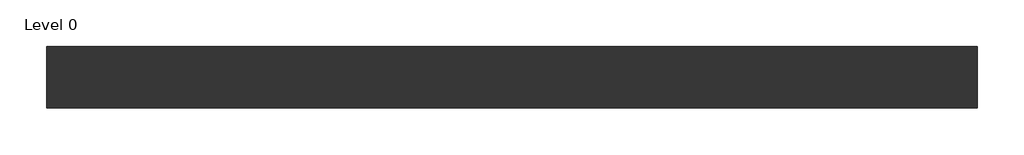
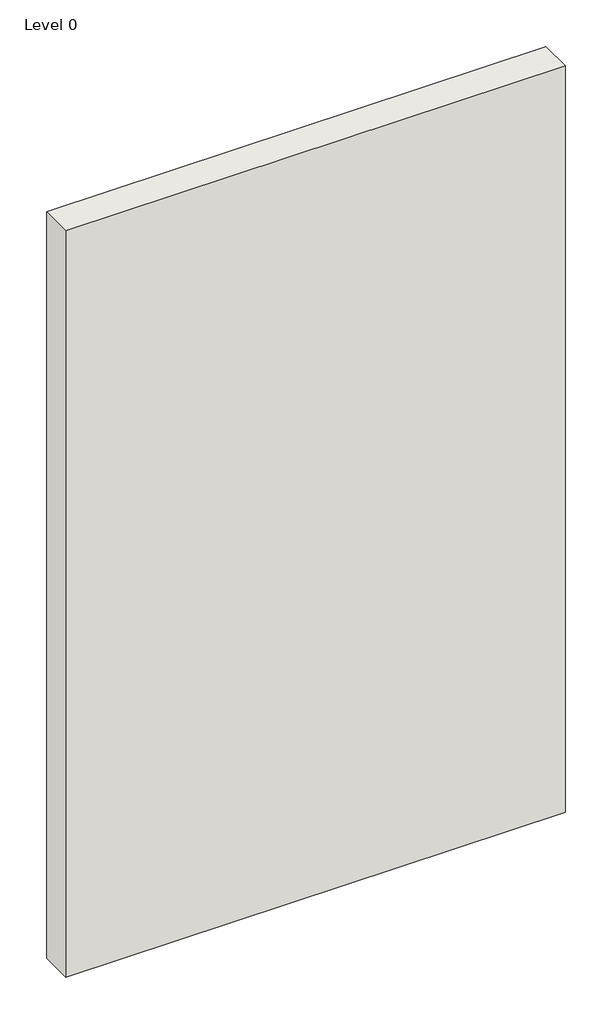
# One storey: 1 wall.
"""IFC4 building model written with IfcOpenShell, lengths in millimetres."""

from ifc_helpers import new_model, si_unit, origin, origin_with_axes, place, context, project, spatial, polyline, outline, extrude, element, save

model = new_model("IFC4")

# Units and contexts
model_context = context("Model", 3, world=origin())
ifc_project = project(units=[si_unit("LENGTHUNIT", "METRE", prefix="MILLI")], contexts=[model_context])

# Site, building, storey
site = spatial("IfcSite", under=ifc_project)
building = spatial("IfcBuilding", under=site)
storey = spatial("IfcBuildingStorey", under=building, Name="Level 0", Elevation=0.0)

# Wall
placement = place(None, origin())
element("IfcWall", 1, ObjectType="A233008 - GypWall Staggered", at=placement, inside=storey, context=model_context, shape_type="SweptSolid", body=[
    extrude(outline(polyline([(1155.997948, 452.2669953), (-1944.002052, 452.2669953), (-1944.002052, 658.2669953), (1155.997948, 658.2669953), (1155.997948, 452.2669953)])), origin_with_axes(), (0.0, 0.0, 1.0), 4900.0),
])

save(model, "model.ifc")
